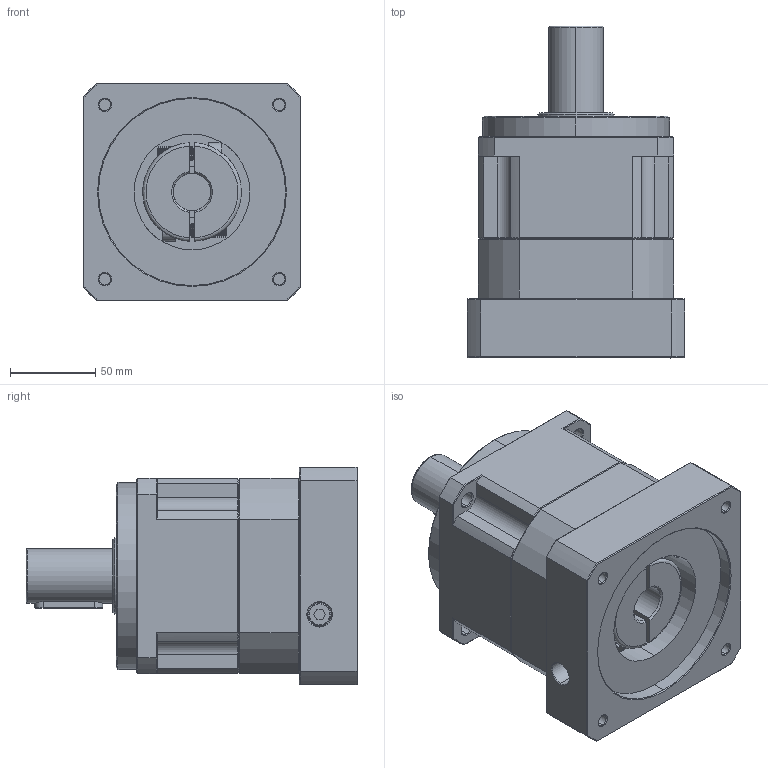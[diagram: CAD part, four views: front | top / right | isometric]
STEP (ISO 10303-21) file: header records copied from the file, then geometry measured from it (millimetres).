
FILE_DESCRIPTION (( 'STEP AP214' ), '1' );
FILE_NAME ('ZPB115-D32-L1-P1-22-110-145-M8.step', '2024-06-11T19:31:05', ( 'Windows 蚚誧' ), ( 'Organization' ), 'SwSTEP 2.0', 'SolidWorks 2016', '' );
FILE_SCHEMA (( 'AUTOMOTIVE_DESIGN' ));
Length unit declared in the file: millimetre
Products named in the file (1): ZPB115-D32-L1-P1-22-110-145-M8
Bounding box: 128 x 195 x 128 mm (x, y, z)
Surface area: 137294.6 mm2 (no closed solid volume)
Topology: 0 solids, 28 shells, 1803 faces, 4922 edges, 3178 vertices
Faces by surface type: plane 916, bspline 381, cone 266, cylinder 240
Full cylindrical faces by diameter (mm): 10.2 x4
Entity records: 97371 total; most frequent: CARTESIAN_POINT 49047, ORIENTED_EDGE 9646, DIRECTION 7361, EDGE_CURVE 4832, LINE 3141, VECTOR 3141, VERTEX_POINT 3114, AXIS2_PLACEMENT_3D 2110
